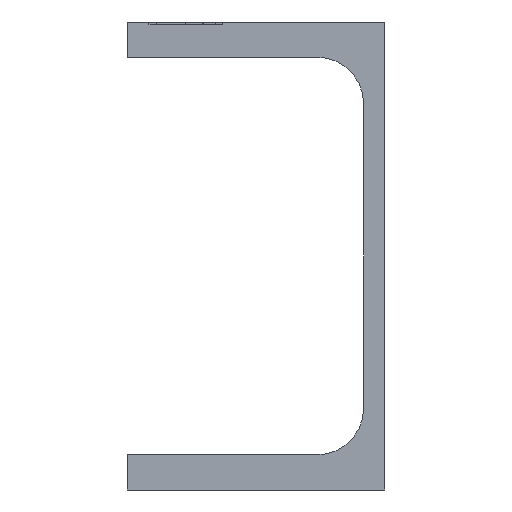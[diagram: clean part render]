
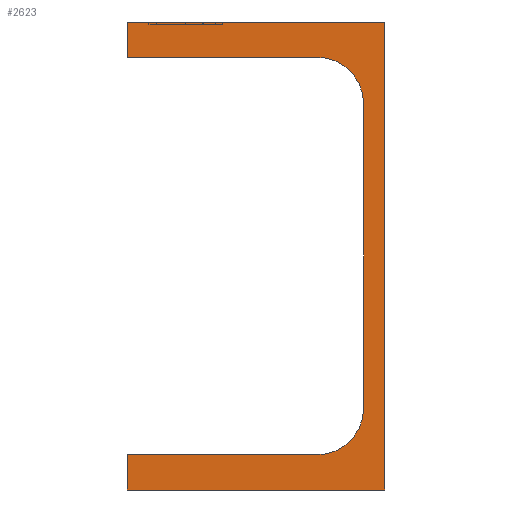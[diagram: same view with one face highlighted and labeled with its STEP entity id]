
A CAD part, left-side view. The second image highlights one B-rep face of the part: STEP entity #2623.
In plain terms, the highlighted planar face has unit normal (-1, 0, 0).
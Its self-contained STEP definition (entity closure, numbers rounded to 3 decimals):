
#17 = ORIENTED_EDGE ( 'NONE', *, *, #291, .T. ) ;
#55 = DIRECTION ( 'NONE',  ( 0., 0., 1. ) ) ;
#75 = PLANE ( 'NONE',  #1376 ) ;
#169 = DIRECTION ( 'NONE',  ( 0., -1., 0. ) ) ;
#176 = CARTESIAN_POINT ( 'NONE',  ( -55., 2055., 5077.5 ) ) ;
#276 = DIRECTION ( 'NONE',  ( 0., -1., 0. ) ) ;
#291 = EDGE_CURVE ( 'NONE', #3206, #509, #1765, .T. ) ;
#298 = DIRECTION ( 'NONE',  ( 0., 0., 1. ) ) ;
#317 = FACE_OUTER_BOUND ( 'NONE', #2465, .T. ) ;
#331 = VECTOR ( 'NONE', #169, 1000. ) ;
#335 = VERTEX_POINT ( 'NONE', #3323 ) ;
#337 = DIRECTION ( 'NONE',  ( 0., 0., 1. ) ) ;
#421 = CARTESIAN_POINT ( 'NONE',  ( -55., 2055., 5077.5 ) ) ;
#461 = EDGE_CURVE ( 'NONE', #1326, #335, #986, .T. ) ;
#509 = VERTEX_POINT ( 'NONE', #2726 ) ;
#563 = CARTESIAN_POINT ( 'NONE',  ( -55., 2000., 5070. ) ) ;
#565 = CARTESIAN_POINT ( 'NONE',  ( -55., 2014.5, 5162.5 ) ) ;
#577 = ORIENTED_EDGE ( 'NONE', *, *, #1089, .T. ) ;
#581 = VECTOR ( 'NONE', #276, 1000. ) ;
#617 = VERTEX_POINT ( 'NONE', #1694 ) ;
#621 = ORIENTED_EDGE ( 'NONE', *, *, #1231, .T. ) ;
#642 = DIRECTION ( 'NONE',  ( -1., 0., 0. ) ) ;
#694 = VECTOR ( 'NONE', #1228, 1000. ) ;
#714 = CARTESIAN_POINT ( 'NONE',  ( -55., 2820., 5165. ) ) ;
#783 = CARTESIAN_POINT ( 'NONE',  ( -55., 2055., 5162.5 ) ) ;
#807 = CIRCLE ( 'NONE', #1610, 10. ) ;
#857 = CARTESIAN_POINT ( 'NONE',  ( -55., 2004.5, 5152.5 ) ) ;
#926 = VERTEX_POINT ( 'NONE', #3703 ) ;
#929 = DIRECTION ( 'NONE',  ( 0., 0., -1. ) ) ;
#986 = LINE ( 'NONE', #2128, #2672 ) ;
#1076 = DIRECTION ( 'NONE',  ( 0., 0., -1. ) ) ;
#1089 = EDGE_CURVE ( 'NONE', #335, #926, #1930, .T. ) ;
#1112 = CARTESIAN_POINT ( 'NONE',  ( -55., 2055., 5070. ) ) ;
#1120 = ORIENTED_EDGE ( 'NONE', *, *, #1862, .T. ) ;
#1128 = CIRCLE ( 'NONE', #2819, 10. ) ;
#1191 = VERTEX_POINT ( 'NONE', #565 ) ;
#1222 = VECTOR ( 'NONE', #929, 1000. ) ;
#1228 = DIRECTION ( 'NONE',  ( 0., 1., 0. ) ) ;
#1231 = EDGE_CURVE ( 'NONE', #1191, #3206, #807, .T. ) ;
#1287 = CARTESIAN_POINT ( 'NONE',  ( -55., 2000., 5170. ) ) ;
#1326 = VERTEX_POINT ( 'NONE', #1287 ) ;
#1335 = CARTESIAN_POINT ( 'NONE',  ( -55., 2014.5, 5162.5 ) ) ;
#1376 = AXIS2_PLACEMENT_3D ( 'NONE', #714, #642, #337 ) ;
#1410 = CARTESIAN_POINT ( 'NONE',  ( -55., 2014.5, 5152.5 ) ) ;
#1452 = DIRECTION ( 'NONE',  ( 0., 0., 1. ) ) ;
#1522 = DIRECTION ( 'NONE',  ( 1., 0., 0. ) ) ;
#1576 = ORIENTED_EDGE ( 'NONE', *, *, #3587, .T. ) ;
#1610 = AXIS2_PLACEMENT_3D ( 'NONE', #1410, #2363, #1452 ) ;
#1647 = DIRECTION ( 'NONE',  ( 0., 0., -1. ) ) ;
#1694 = CARTESIAN_POINT ( 'NONE',  ( -55., 2014.5, 5077.5 ) ) ;
#1722 = LINE ( 'NONE', #3393, #2467 ) ;
#1765 = LINE ( 'NONE', #2899, #1222 ) ;
#1777 = EDGE_CURVE ( 'NONE', #617, #2781, #3010, .T. ) ;
#1782 = CARTESIAN_POINT ( 'NONE',  ( -55., 2055., 5070. ) ) ;
#1862 = EDGE_CURVE ( 'NONE', #926, #1191, #3347, .T. ) ;
#1927 = ORIENTED_EDGE ( 'NONE', *, *, #2571, .T. ) ;
#1930 = LINE ( 'NONE', #783, #2271 ) ;
#1960 = ORIENTED_EDGE ( 'NONE', *, *, #461, .T. ) ;
#1993 = CARTESIAN_POINT ( 'NONE',  ( -55., 2000., 5070. ) ) ;
#2128 = CARTESIAN_POINT ( 'NONE',  ( -55., 2055., 5170. ) ) ;
#2271 = VECTOR ( 'NONE', #1647, 1000. ) ;
#2363 = DIRECTION ( 'NONE',  ( 1., 0., 0. ) ) ;
#2465 = EDGE_LOOP ( 'NONE', ( #3099, #1960, #577, #1120, #621, #17, #1576, #3285, #2934, #1927 ) ) ;
#2467 = VECTOR ( 'NONE', #298, 1000. ) ;
#2507 = EDGE_CURVE ( 'NONE', #2824, #1326, #1722, .T. ) ;
#2552 = LINE ( 'NONE', #1112, #3110 ) ;
#2571 = EDGE_CURVE ( 'NONE', #2599, #2824, #3156, .T. ) ;
#2599 = VERTEX_POINT ( 'NONE', #1782 ) ;
#2623 = ADVANCED_FACE ( 'NONE', ( #317 ), #75, .T. ) ;
#2672 = VECTOR ( 'NONE', #3060, 1000. ) ;
#2689 = CARTESIAN_POINT ( 'NONE',  ( -55., 2014.5, 5087.5 ) ) ;
#2708 = EDGE_CURVE ( 'NONE', #2781, #2599, #2552, .T. ) ;
#2726 = CARTESIAN_POINT ( 'NONE',  ( -55., 2004.5, 5087.5 ) ) ;
#2781 = VERTEX_POINT ( 'NONE', #176 ) ;
#2819 = AXIS2_PLACEMENT_3D ( 'NONE', #2689, #1522, #55 ) ;
#2824 = VERTEX_POINT ( 'NONE', #1993 ) ;
#2899 = CARTESIAN_POINT ( 'NONE',  ( -55., 2004.5, 5087.5 ) ) ;
#2934 = ORIENTED_EDGE ( 'NONE', *, *, #2708, .T. ) ;
#3010 = LINE ( 'NONE', #421, #694 ) ;
#3060 = DIRECTION ( 'NONE',  ( 0., 1., 0. ) ) ;
#3099 = ORIENTED_EDGE ( 'NONE', *, *, #2507, .T. ) ;
#3110 = VECTOR ( 'NONE', #1076, 1000. ) ;
#3156 = LINE ( 'NONE', #563, #581 ) ;
#3206 = VERTEX_POINT ( 'NONE', #857 ) ;
#3285 = ORIENTED_EDGE ( 'NONE', *, *, #1777, .T. ) ;
#3323 = CARTESIAN_POINT ( 'NONE',  ( -55., 2055., 5170. ) ) ;
#3347 = LINE ( 'NONE', #1335, #331 ) ;
#3393 = CARTESIAN_POINT ( 'NONE',  ( -55., 2000., 5170. ) ) ;
#3587 = EDGE_CURVE ( 'NONE', #509, #617, #1128, .T. ) ;
#3703 = CARTESIAN_POINT ( 'NONE',  ( -55., 2055., 5162.5 ) ) ;
